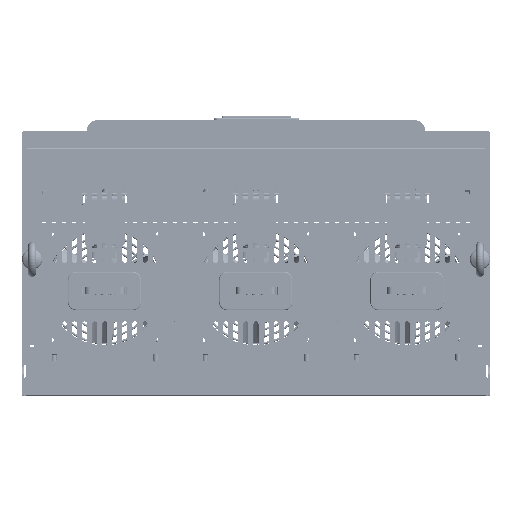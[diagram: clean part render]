
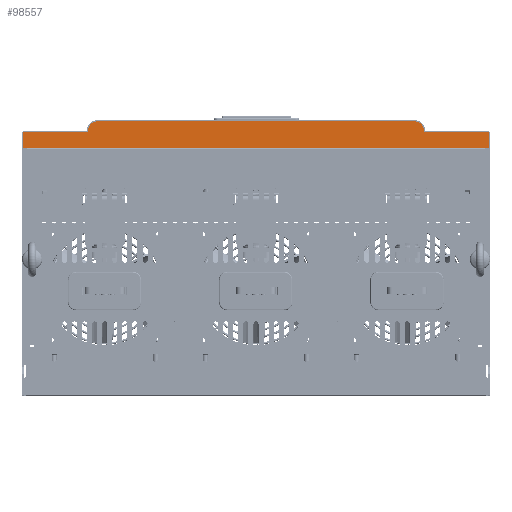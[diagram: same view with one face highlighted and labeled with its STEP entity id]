
A CAD part, top view. The second image highlights one B-rep face of the part: STEP entity #98557.
In plain terms, the highlighted planar face has unit normal (0, 0, 1).
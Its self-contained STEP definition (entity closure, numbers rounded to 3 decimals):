
#98286=DIRECTION('',(-1.,0.,0.));
#98287=VECTOR('',#98286,461.6);
#98288=CARTESIAN_POINT('',(230.9,-27.5,-181.8));
#98289=LINE('',#98288,#98287);
#98290=DIRECTION('',(0.,1.,0.));
#98291=VECTOR('',#98290,15.);
#98292=CARTESIAN_POINT('',(-230.7,-27.5,-181.8));
#98293=LINE('',#98292,#98291);
#98294=CARTESIAN_POINT('',(-230.2,-12.5,-181.8));
#98295=DIRECTION('',(0.,0.,-1.));
#98296=DIRECTION('',(-1.,0.,0.));
#98297=AXIS2_PLACEMENT_3D('',#98294,#98295,#98296);
#98299=DIRECTION('',(1.,0.,0.));
#98300=VECTOR('',#98299,62.3);
#98301=CARTESIAN_POINT('',(-230.2,-12.,-181.8));
#98302=LINE('',#98301,#98300);
#98303=CARTESIAN_POINT('',(-167.9,-10.3,-181.8));
#98304=DIRECTION('',(0.,0.,1.));
#98305=DIRECTION('',(0.,-1.,0.));
#98306=AXIS2_PLACEMENT_3D('',#98303,#98304,#98305);
#98308=DIRECTION('',(0.,1.,0.));
#98309=VECTOR('',#98308,0.3);
#98310=CARTESIAN_POINT('',(-166.2,-10.3,-181.8));
#98311=LINE('',#98310,#98309);
#98312=CARTESIAN_POINT('',(-157.4,-10.,-181.8));
#98313=DIRECTION('',(0.,0.,-1.));
#98314=DIRECTION('',(-1.,0.,0.));
#98315=AXIS2_PLACEMENT_3D('',#98312,#98313,#98314);
#98317=DIRECTION('',(1.,0.,0.));
#98318=VECTOR('',#98317,315.);
#98319=CARTESIAN_POINT('',(-157.4,-1.2,-181.8));
#98320=LINE('',#98319,#98318);
#98321=CARTESIAN_POINT('',(157.6,-10.,-181.8));
#98322=DIRECTION('',(0.,0.,-1.));
#98323=DIRECTION('',(0.,1.,0.));
#98324=AXIS2_PLACEMENT_3D('',#98321,#98322,#98323);
#98326=DIRECTION('',(0.,-1.,0.));
#98327=VECTOR('',#98326,0.3);
#98328=CARTESIAN_POINT('',(166.4,-10.,-181.8));
#98329=LINE('',#98328,#98327);
#98330=CARTESIAN_POINT('',(168.1,-10.3,-181.8));
#98331=DIRECTION('',(0.,0.,1.));
#98332=DIRECTION('',(-1.,0.,0.));
#98333=AXIS2_PLACEMENT_3D('',#98330,#98331,#98332);
#98335=DIRECTION('',(1.,0.,0.));
#98336=VECTOR('',#98335,62.3);
#98337=CARTESIAN_POINT('',(168.1,-12.,-181.8));
#98338=LINE('',#98337,#98336);
#98339=CARTESIAN_POINT('',(230.4,-12.5,-181.8));
#98340=DIRECTION('',(0.,0.,-1.));
#98341=DIRECTION('',(0.,1.,0.));
#98342=AXIS2_PLACEMENT_3D('',#98339,#98340,#98341);
#98344=DIRECTION('',(0.,-1.,0.));
#98345=VECTOR('',#98344,15.);
#98346=CARTESIAN_POINT('',(230.9,-12.5,-181.8));
#98347=LINE('',#98346,#98345);
#98466=CARTESIAN_POINT('',(230.9,-27.5,-181.8));
#98467=CARTESIAN_POINT('',(-230.7,-27.5,-181.8));
#98468=VERTEX_POINT('',#98466);
#98469=VERTEX_POINT('',#98467);
#98470=CARTESIAN_POINT('',(-230.7,-12.5,-181.8));
#98471=VERTEX_POINT('',#98470);
#98472=CARTESIAN_POINT('',(-230.2,-12.,-181.8));
#98473=VERTEX_POINT('',#98472);
#98474=CARTESIAN_POINT('',(-167.9,-12.,-181.8));
#98475=VERTEX_POINT('',#98474);
#98476=CARTESIAN_POINT('',(-166.2,-10.3,-181.8));
#98477=VERTEX_POINT('',#98476);
#98478=CARTESIAN_POINT('',(-166.2,-10.,-181.8));
#98479=VERTEX_POINT('',#98478);
#98480=CARTESIAN_POINT('',(-157.4,-1.2,-181.8));
#98481=VERTEX_POINT('',#98480);
#98482=CARTESIAN_POINT('',(157.6,-1.2,-181.8));
#98483=VERTEX_POINT('',#98482);
#98484=CARTESIAN_POINT('',(166.4,-10.,-181.8));
#98485=VERTEX_POINT('',#98484);
#98486=CARTESIAN_POINT('',(166.4,-10.3,-181.8));
#98487=VERTEX_POINT('',#98486);
#98488=CARTESIAN_POINT('',(168.1,-12.,-181.8));
#98489=VERTEX_POINT('',#98488);
#98490=CARTESIAN_POINT('',(230.4,-12.,-181.8));
#98491=VERTEX_POINT('',#98490);
#98492=CARTESIAN_POINT('',(230.9,-12.5,-181.8));
#98493=VERTEX_POINT('',#98492);
#98522=CARTESIAN_POINT('',(0.1,0.,-181.8));
#98523=DIRECTION('',(0.,0.,1.));
#98524=DIRECTION('',(1.,0.,0.));
#98525=AXIS2_PLACEMENT_3D('',#98522,#98523,#98524);
#98526=PLANE('',#98525);
#98528=ORIENTED_EDGE('',*,*,#98527,.T.);
#98530=ORIENTED_EDGE('',*,*,#98529,.T.);
#98532=ORIENTED_EDGE('',*,*,#98531,.T.);
#98534=ORIENTED_EDGE('',*,*,#98533,.T.);
#98536=ORIENTED_EDGE('',*,*,#98535,.T.);
#98538=ORIENTED_EDGE('',*,*,#98537,.T.);
#98540=ORIENTED_EDGE('',*,*,#98539,.T.);
#98542=ORIENTED_EDGE('',*,*,#98541,.T.);
#98544=ORIENTED_EDGE('',*,*,#98543,.T.);
#98546=ORIENTED_EDGE('',*,*,#98545,.T.);
#98548=ORIENTED_EDGE('',*,*,#98547,.T.);
#98550=ORIENTED_EDGE('',*,*,#98549,.T.);
#98552=ORIENTED_EDGE('',*,*,#98551,.T.);
#98554=ORIENTED_EDGE('',*,*,#98553,.T.);
#98555=EDGE_LOOP('',(#98528,#98530,#98532,#98534,#98536,#98538,#98540,#98542,
#98544,#98546,#98548,#98550,#98552,#98554));
#98556=FACE_OUTER_BOUND('',#98555,.F.);
#98557=ADVANCED_FACE('',(#98556),#98526,.T.);
#98298=CIRCLE('',#98297,0.5);
#98307=CIRCLE('',#98306,1.7);
#98316=CIRCLE('',#98315,8.8);
#98325=CIRCLE('',#98324,8.8);
#98334=CIRCLE('',#98333,1.7);
#98343=CIRCLE('',#98342,0.5);
#98527=EDGE_CURVE('',#98468,#98469,#98289,.T.);
#98529=EDGE_CURVE('',#98469,#98471,#98293,.T.);
#98531=EDGE_CURVE('',#98471,#98473,#98298,.T.);
#98533=EDGE_CURVE('',#98473,#98475,#98302,.T.);
#98535=EDGE_CURVE('',#98475,#98477,#98307,.T.);
#98537=EDGE_CURVE('',#98477,#98479,#98311,.T.);
#98539=EDGE_CURVE('',#98479,#98481,#98316,.T.);
#98541=EDGE_CURVE('',#98481,#98483,#98320,.T.);
#98543=EDGE_CURVE('',#98483,#98485,#98325,.T.);
#98545=EDGE_CURVE('',#98485,#98487,#98329,.T.);
#98547=EDGE_CURVE('',#98487,#98489,#98334,.T.);
#98549=EDGE_CURVE('',#98489,#98491,#98338,.T.);
#98551=EDGE_CURVE('',#98491,#98493,#98343,.T.);
#98553=EDGE_CURVE('',#98493,#98468,#98347,.T.);
